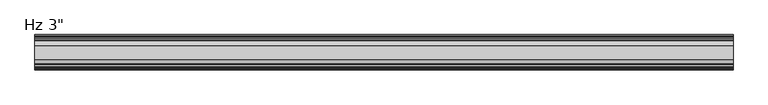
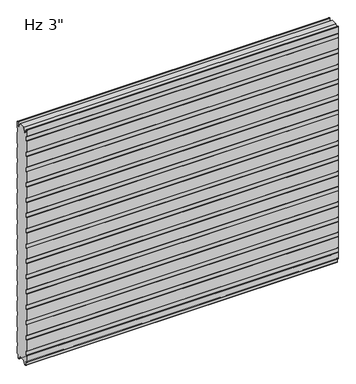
"""IFC4 building model written with IfcOpenShell, lengths in millimetres: plate geometry."""

from ifc_helpers import new_model, si_unit, frame, origin, place, context, project, spatial, polyline, circle_curve, source, transform, mapped, element, save
from ifc_brep_helpers import plane_surface, cylinder_surface, revolved_surface, advanced_brep


def plate_c64ea5ff(model_context):
    return source(origin(), model_context, "Body", "AdvancedBrep", [
        advanced_brep(
        [(-730.0, -74.0088405, 1097.7830195), (-730.0, -74.0088405, 1117.5660142), (-730.0, -75.1999956, 1118.6385351), (-730.0, -75.1999956, 1150.8100652), (-730.0, -73.2227271, 1152.7873337), (-730.0, -72.1806285, 1152.7873337), (-730.0, -70.20336, 1150.8100652), (-730.0, -70.20336, 1136.6216802), (-730.0, -67.6154835, 1134.0338036), (-730.0, -63.2950653, 1134.0338036), (-730.0, -62.7060718, 1133.4253365), (-730.0, -62.7060718, 1131.0482432), (-730.0, -61.7065979, 1131.0482432), (-730.0, -61.7065979, 1136.4905123), (-730.0, -52.4490821, 1152.525), (-730.0, -23.7509179, 1152.525), (-730.0, -14.4934021, 1136.4905123), (-730.0, -14.4934021, 1131.0482432), (-730.0, -13.4939282, 1131.0482432), (-730.0, -13.4939282, 1133.4253365), (-730.0, -12.9049347, 1134.0338036), (-730.0, -8.5845165, 1134.0338036), (-730.0, -5.99664, 1136.6216802), (-730.0, -5.99664, 1150.8100652), (-730.0, -4.0193715, 1152.7873337), (-730.0, -2.9772729, 1152.7873337), (-730.0, -1.0000044, 1150.8100652), (-730.0, -1.0000044, 1118.6385351), (-730.0, -2.1911595, 1117.5660142), (-730.0, -2.1911595, 1097.7830195), (-730.0, -1.0, 1096.7104947), (-730.0, -1.0, 1043.0159187), (-730.0, -2.1911595, 1041.9433939), (-730.0, -2.1911595, 1022.1603992), (-730.0, -1.0, 1021.0878744), (-730.0, -1.0, 967.3932985), (-730.0, -2.1911595, 966.3207736), (-730.0, -2.1911595, 946.537779), (-730.0, -1.0, 945.4652541), (-730.0, -1.0, 891.7706782), (-730.0, -2.1911595, 890.6981534), (-730.0, -2.1911595, 870.9151587), (-730.0, -1.0, 869.8426339), (-730.0, -1.0, 816.148058), (-730.0, -2.1911595, 815.0755331), (-730.0, -2.1911595, 795.2925384), (-730.0, -1.0, 794.2200136), (-730.0, -1.0, 740.5254377), (-730.0, -2.1911595, 739.4529129), (-730.0, -2.1911595, 719.6699182), (-730.0, -1.0, 718.5973933), (-730.0, -1.0, 664.9028174), (-730.0, -2.1911595, 663.8302926), (-730.0, -2.1911595, 644.0472979), (-730.0, -1.0, 642.9747731), (-730.0, -1.0, 589.2801972), (-730.0, -2.1911595, 588.2076723), (-730.0, -2.1911595, 568.4246776), (-730.0, -1.0, 567.3521528), (-730.0, -1.0, 513.6575769), (-730.0, -2.1911595, 512.5850521), (-730.0, -2.1911595, 492.8020574), (-730.0, -1.0, 491.7295325), (-730.0, -1.0, 438.0349566), (-730.0, -2.1911595, 436.9624318), (-730.0, -2.1911595, 417.1794371), (-730.0, -1.0, 416.1069123), (-730.0, -1.0, 362.4123364), (-730.0, -2.1911595, 361.3398115), (-730.0, -2.1911595, 341.5568169), (-730.0, -1.0, 340.484292), (-730.0, -1.0, 286.7897161), (-730.0, -2.1911595, 285.7171913), (-730.0, -2.1911595, 265.9341966), (-730.0, -1.0, 264.8616718), (-730.0, -1.0, 211.1670958), (-730.0, -2.1911595, 210.094571), (-730.0, -2.1911595, 190.3115763), (-730.0, -1.0, 189.2390515), (-730.0, -1.0, 135.5444756), (-730.0, -2.1911595, 134.4719507), (-730.0, -2.1911595, 114.6889561), (-730.0, -1.0, 113.6164312), (-730.0, -1.0, 59.9218553), (-730.0, -2.1911595, 58.8493305), (-730.0, -2.1911595, 39.0663358), (-730.0, -1.0000109, 37.993811), (-730.0, -1.0000109, 5.8272239), (-730.0, -2.9772849, 3.8499499), (-730.0, -5.2691749, 3.8499499), (-730.0, -9.246442, -0.1273173), (-730.0, -9.246442, -15.7237417), (-730.0, -9.8343189, -16.3116186), (-730.0, -12.9058679, -16.3116186), (-730.0, -13.4937446, -15.723742), (-730.0, -13.4937446, -13.3687064), (-730.0, -14.4937446, -13.3687064), (-730.0, -14.4937446, -15.6582851), (-730.0, -23.7509179, 0.0), (-730.0, -52.4490865, 0.0), (-730.0, -61.7062554, -15.6582851), (-730.0, -61.7062554, -13.3687064), (-730.0, -62.7062554, -13.3687064), (-730.0, -62.7062554, -15.723742), (-730.0, -63.2941321, -16.3116186), (-730.0, -66.3656811, -16.3116186), (-730.0, -66.953558, -15.7237417), (-730.0, -66.953558, -0.1273173), (-730.0, -70.9308251, 3.8499499), (-730.0, -73.2227151, 3.8499499), (-730.0, -75.1999891, 5.8272239), (-730.0, -75.1999891, 37.993811), (-730.0, -74.0088405, 39.0663358), (-730.0, -74.0088405, 58.8493305), (-730.0, -75.2, 59.9218553), (-730.0, -75.2, 113.6164312), (-730.0, -74.0088405, 114.6889561), (-730.0, -74.0088405, 134.4719507), (-730.0, -75.2, 135.5444756), (-730.0, -75.2, 189.2390515), (-730.0, -74.0088405, 190.3115763), (-730.0, -74.0088405, 210.094571), (-730.0, -75.2, 211.1670958), (-730.0, -75.2, 264.8616718), (-730.0, -74.0088405, 265.9341966), (-730.0, -74.0088405, 285.7171913), (-730.0, -75.2, 286.7897161), (-730.0, -75.2, 340.484292), (-730.0, -74.0088405, 341.5568169), (-730.0, -74.0088405, 361.3398115), (-730.0, -75.2, 362.4123364), (-730.0, -75.2, 416.1069123), (-730.0, -74.0088405, 417.1794371), (-730.0, -74.0088405, 436.9624318), (-730.0, -75.2, 438.0349566), (-730.0, -75.2, 491.7295325), (-730.0, -74.0088405, 492.8020574), (-730.0, -74.0088405, 512.5850521), (-730.0, -75.2, 513.6575769), (-730.0, -75.2, 567.3521528), (-730.0, -74.0088405, 568.4246776), (-730.0, -74.0088405, 588.2076723), (-730.0, -75.2, 589.2801972), (-730.0, -75.2, 642.9747731), (-730.0, -74.0088405, 644.0472979), (-730.0, -74.0088405, 663.8302926), (-730.0, -75.2, 664.9028174), (-730.0, -75.2, 718.5973933), (-730.0, -74.0088405, 719.6699182), (-730.0, -74.0088405, 739.4529129), (-730.0, -75.2, 740.5254377), (-730.0, -75.2, 794.2200136), (-730.0, -74.0088405, 795.2925384), (-730.0, -74.0088405, 815.0755331), (-730.0, -75.2, 816.148058), (-730.0, -75.2, 869.8426339), (-730.0, -74.0088405, 870.9151587), (-730.0, -74.0088405, 890.6981534), (-730.0, -75.2, 891.7706782), (-730.0, -75.2, 945.4652541), (-730.0, -74.0088405, 946.537779), (-730.0, -74.0088405, 966.3207736), (-730.0, -75.2, 967.3932985), (-730.0, -75.2, 1021.0878744), (-730.0, -74.0088405, 1022.1603992), (-730.0, -74.0088405, 1041.9433939), (-730.0, -75.2, 1043.0159187), (-730.0, -75.2, 1096.7104947), (730.0, -74.0088405, 1097.7830195), (730.0, -75.2, 1096.7104947), (730.0, -75.2, 1043.0159187), (730.0, -74.0088405, 1041.9433939), (730.0, -74.0088405, 1022.1603992), (730.0, -75.2, 1021.0878744), (730.0, -75.2, 967.3932985), (730.0, -74.0088405, 966.3207736), (730.0, -74.0088405, 946.537779), (730.0, -75.2, 945.4652541), (730.0, -75.2, 891.7706782), (730.0, -74.0088405, 890.6981534), (730.0, -74.0088405, 870.9151587), (730.0, -75.2, 869.8426339), (730.0, -75.2, 816.148058), (730.0, -74.0088405, 815.0755331), (730.0, -74.0088405, 795.2925384), (730.0, -75.2, 794.2200136), (730.0, -75.2, 740.5254377), (730.0, -74.0088405, 739.4529129), (730.0, -74.0088405, 719.6699182), (730.0, -75.2, 718.5973933), (730.0, -75.2, 664.9028174), (730.0, -74.0088405, 663.8302926), (730.0, -74.0088405, 644.0472979), (730.0, -75.2, 642.9747731), (730.0, -75.2, 589.2801972), (730.0, -74.0088405, 588.2076723), (730.0, -74.0088405, 568.4246776), (730.0, -75.2, 567.3521528), (730.0, -75.2, 513.6575769), (730.0, -74.0088405, 512.5850521), (730.0, -74.0088405, 492.8020574), (730.0, -75.2, 491.7295325), (730.0, -75.2, 438.0349566), (730.0, -74.0088405, 436.9624318), (730.0, -74.0088405, 417.1794371), (730.0, -75.2, 416.1069123), (730.0, -75.2, 362.4123364), (730.0, -74.0088405, 361.3398115), (730.0, -74.0088405, 341.5568169), (730.0, -75.2, 340.484292), (730.0, -75.2, 286.7897161), (730.0, -74.0088405, 285.7171913), (730.0, -74.0088405, 265.9341966), (730.0, -75.2, 264.8616718), (730.0, -75.2, 211.1670958), (730.0, -74.0088405, 210.094571), (730.0, -74.0088405, 190.3115763), (730.0, -75.2, 189.2390515), (730.0, -75.2, 135.5444756), (730.0, -74.0088405, 134.4719507), (730.0, -74.0088405, 114.6889561), (730.0, -75.2, 113.6164312), (730.0, -75.2, 59.9218553), (730.0, -74.0088405, 58.8493305), (730.0, -74.0088405, 39.0663358), (730.0, -75.1999891, 37.993811), (730.0, -75.1999891, 5.8272239), (730.0, -73.2227151, 3.8499499), (730.0, -70.9308251, 3.8499499), (730.0, -66.953558, -0.1273173), (730.0, -66.953558, -15.7237417), (730.0, -66.3656811, -16.3116186), (730.0, -63.2941321, -16.3116186), (730.0, -62.7062554, -15.723742), (730.0, -62.7062554, -13.3687064), (730.0, -61.7062554, -13.3687064), (730.0, -61.7062554, -15.6582851), (730.0, -52.4490821, 0.0), (730.0, -23.7509179, 0.0), (730.0, -14.4937446, -15.6582851), (730.0, -14.4937446, -13.3687064), (730.0, -13.4937446, -13.3687064), (730.0, -13.4937446, -15.723742), (730.0, -12.9058679, -16.3116186), (730.0, -9.8343189, -16.3116186), (730.0, -9.246442, -15.7237417), (730.0, -9.246442, -0.1273173), (730.0, -5.2691749, 3.8499499), (730.0, -2.9772849, 3.8499499), (730.0, -1.0000109, 5.8272239), (730.0, -1.0000109, 37.993811), (730.0, -2.1911595, 39.0663358), (730.0, -2.1911595, 58.8493305), (730.0, -1.0, 59.9218553), (730.0, -1.0, 113.6164312), (730.0, -2.1911595, 114.6889561), (730.0, -2.1911595, 134.4719507), (730.0, -1.0, 135.5444756), (730.0, -1.0, 189.2390515), (730.0, -2.1911595, 190.3115763), (730.0, -2.1911595, 210.094571), (730.0, -1.0, 211.1670958), (730.0, -1.0, 264.8616718), (730.0, -2.1911595, 265.9341966), (730.0, -2.1911595, 285.7171913), (730.0, -1.0, 286.7897161), (730.0, -1.0, 340.484292), (730.0, -2.1911595, 341.5568169), (730.0, -2.1911595, 361.3398115), (730.0, -1.0, 362.4123364), (730.0, -1.0, 416.1069123), (730.0, -2.1911595, 417.1794371), (730.0, -2.1911595, 436.9624318), (730.0, -1.0, 438.0349566), (730.0, -1.0, 491.7295325), (730.0, -2.1911595, 492.8020574), (730.0, -2.1911595, 512.5850521), (730.0, -1.0, 513.6575769), (730.0, -1.0, 567.3521528), (730.0, -2.1911595, 568.4246776), (730.0, -2.1911595, 588.2076723), (730.0, -1.0, 589.2801972), (730.0, -1.0, 642.9747731), (730.0, -2.1911595, 644.0472979), (730.0, -2.1911595, 663.8302926), (730.0, -1.0, 664.9028174), (730.0, -1.0, 718.5973933), (730.0, -2.1911595, 719.6699182), (730.0, -2.1911595, 739.4529129), (730.0, -1.0, 740.5254377), (730.0, -1.0, 794.2200136), (730.0, -2.1911595, 795.2925384), (730.0, -2.1911595, 815.0755331), (730.0, -1.0, 816.148058), (730.0, -1.0, 869.8426339), (730.0, -2.1911595, 870.9151587), (730.0, -2.1911595, 890.6981534), (730.0, -1.0, 891.7706782), (730.0, -1.0, 945.4652541), (730.0, -2.1911595, 946.537779), (730.0, -2.1911595, 966.3207736), (730.0, -1.0, 967.3932985), (730.0, -1.0, 1021.0878744), (730.0, -2.1911595, 1022.1603992), (730.0, -2.1911595, 1041.9433939), (730.0, -1.0, 1043.0159187), (730.0, -1.0, 1096.7104947), (730.0, -2.1911595, 1097.7830195), (730.0, -2.1911595, 1117.5660142), (730.0, -1.0000044, 1118.6385351), (730.0, -1.0000044, 1150.8100652), (730.0, -2.9772729, 1152.7873337), (730.0, -4.0193715, 1152.7873337), (730.0, -5.99664, 1150.8100652), (730.0, -5.99664, 1136.6216802), (730.0, -8.5845165, 1134.0338036), (730.0, -12.9049347, 1134.0338036), (730.0, -13.4939282, 1133.4253365), (730.0, -13.4939282, 1131.0482432), (730.0, -14.4934021, 1131.0482432), (730.0, -14.4934021, 1136.4905123), (730.0, -23.7509179, 1152.525), (730.0, -52.4490865, 1152.525), (730.0, -61.7065979, 1136.4905123), (730.0, -61.7065979, 1131.0482432), (730.0, -62.7060718, 1131.0482432), (730.0, -62.7060718, 1133.4253365), (730.0, -63.2950653, 1134.0338036), (730.0, -67.6154835, 1134.0338036), (730.0, -70.20336, 1136.6216802), (730.0, -70.20336, 1150.8100652), (730.0, -72.1806285, 1152.7873337), (730.0, -73.2227271, 1152.7873337), (730.0, -75.1999956, 1150.8100652), (730.0, -75.1999956, 1118.6385351), (730.0, -74.0088405, 1117.5660142)],
        [
            (0, 1),
            (1, 2),
            (2, 3),
            (3, 4, circle_curve(frame((-730.0, -73.2227271, 1150.8100652), z_axis=(-1.0, 0.0, 0.0), x_axis=(0.0, 0.0, -1.0)), 1.9772685)),
            (4, 5),
            (5, 6, circle_curve(frame((-730.0, -72.1806285, 1150.8100652), z_axis=(-1.0, 0.0, 0.0), x_axis=(0.0, 0.0, -1.0)), 1.9772685)),
            (6, 7),
            (7, 8, circle_curve(frame((-730.0, -67.6154835, 1136.6216802), z_axis=(1.0, 0.0, 0.0), x_axis=(0.0, 0.0, -1.0)), 2.5878765)),
            (8, 9),
            (9, 10, circle_curve(frame((-730.0, -63.2950653, 1133.4444985), z_axis=(-1.0, 0.0, 0.0), x_axis=(0.0, 0.0, -1.0)), 0.5893051)),
            (10, 11),
            (11, 12),
            (12, 13),
            (13, 14),
            (14, 15),
            (15, 16),
            (16, 17),
            (17, 18),
            (18, 19),
            (19, 20, circle_curve(frame((-730.0, -12.9049347, 1133.4444985), z_axis=(-1.0, 0.0, 0.0), x_axis=(0.0, 1.0, 0.0)), 0.5893051)),
            (20, 21),
            (21, 22, circle_curve(frame((-730.0, -8.5845165, 1136.6216802), z_axis=(1.0, 0.0, 0.0), x_axis=(0.0, 1.0, 0.0)), 2.5878765)),
            (22, 23),
            (23, 24, circle_curve(frame((-730.0, -4.0193715, 1150.8100652), z_axis=(-1.0, 0.0, 0.0), x_axis=(0.0, 1.0, 0.0)), 1.9772685)),
            (24, 25),
            (25, 26, circle_curve(frame((-730.0, -2.9772729, 1150.8100652), z_axis=(-1.0, 0.0, 0.0), x_axis=(0.0, 1.0, 0.0)), 1.9772685)),
            (26, 27),
            (27, 28),
            (28, 29),
            (29, 30),
            (30, 31),
            (31, 32),
            (32, 33),
            (33, 34),
            (34, 35),
            (35, 36),
            (36, 37),
            (37, 38),
            (38, 39),
            (39, 40),
            (40, 41),
            (41, 42),
            (42, 43),
            (43, 44),
            (44, 45),
            (45, 46),
            (46, 47),
            (47, 48),
            (48, 49),
            (49, 50),
            (50, 51),
            (51, 52),
            (52, 53),
            (53, 54),
            (54, 55),
            (55, 56),
            (56, 57),
            (57, 58),
            (58, 59),
            (59, 60),
            (60, 61),
            (61, 62),
            (62, 63),
            (63, 64),
            (64, 65),
            (65, 66),
            (66, 67),
            (67, 68),
            (68, 69),
            (69, 70),
            (70, 71),
            (71, 72),
            (72, 73),
            (73, 74),
            (74, 75),
            (75, 76),
            (76, 77),
            (77, 78),
            (78, 79),
            (79, 80),
            (80, 81),
            (81, 82),
            (82, 83),
            (83, 84),
            (84, 85),
            (85, 86),
            (86, 87),
            (87, 88, circle_curve(frame((-730.0, -2.9772849, 5.8272239), z_axis=(-1.0, 0.0, 0.0), x_axis=(0.0, 1.0, 0.0)), 1.977274)),
            (88, 89),
            (89, 90, circle_curve(frame((-730.0, -5.2691749, -0.1273173), z_axis=(1.0, 0.0, 0.0), x_axis=(0.0, 1.0, 0.0)), 3.9772671)),
            (90, 91),
            (91, 92, circle_curve(frame((-730.0, -9.8343189, -15.7237417), z_axis=(-1.0, 0.0, 0.0), x_axis=(0.0, 1.0, 0.0)), 0.5878769)),
            (92, 93),
            (93, 94, circle_curve(frame((-730.0, -12.9058679, -15.723742), z_axis=(-1.0, 0.0, 0.0), x_axis=(0.0, 1.0, 0.0)), 0.5878766)),
            (94, 95),
            (95, 96),
            (96, 97),
            (97, 98),
            (98, 99),
            (99, 100),
            (100, 101),
            (101, 102),
            (102, 103),
            (103, 104, circle_curve(frame((-730.0, -63.2941321, -15.723742), z_axis=(-1.0, 0.0, 0.0), x_axis=(0.0, 0.0, -1.0)), 0.5878766)),
            (104, 105),
            (105, 106, circle_curve(frame((-730.0, -66.3656811, -15.7237417), z_axis=(-1.0, 0.0, 0.0), x_axis=(0.0, 0.0, -1.0)), 0.5878769)),
            (106, 107),
            (107, 108, circle_curve(frame((-730.0, -70.9308251, -0.1273173), z_axis=(1.0, 0.0, 0.0), x_axis=(0.0, 0.0, -1.0)), 3.9772671)),
            (108, 109),
            (109, 110, circle_curve(frame((-730.0, -73.2227151, 5.8272239), z_axis=(-1.0, 0.0, 0.0), x_axis=(0.0, 0.0, -1.0)), 1.977274)),
            (110, 111),
            (111, 112),
            (112, 113),
            (113, 114),
            (114, 115),
            (115, 116),
            (116, 117),
            (117, 118),
            (118, 119),
            (119, 120),
            (120, 121),
            (121, 122),
            (122, 123),
            (123, 124),
            (124, 125),
            (125, 126),
            (126, 127),
            (127, 128),
            (128, 129),
            (129, 130),
            (130, 131),
            (131, 132),
            (132, 133),
            (133, 134),
            (134, 135),
            (135, 136),
            (136, 137),
            (137, 138),
            (138, 139),
            (139, 140),
            (140, 141),
            (141, 142),
            (142, 143),
            (143, 144),
            (144, 145),
            (145, 146),
            (146, 147),
            (147, 148),
            (148, 149),
            (149, 150),
            (150, 151),
            (151, 152),
            (152, 153),
            (153, 154),
            (154, 155),
            (155, 156),
            (156, 157),
            (157, 158),
            (158, 159),
            (159, 160),
            (160, 161),
            (161, 162),
            (162, 163),
            (163, 164),
            (164, 165),
            (165, 166),
            (166, 167),
            (167, 0),
            (168, 169),
            (169, 170),
            (170, 171),
            (171, 172),
            (172, 173),
            (173, 174),
            (174, 175),
            (175, 176),
            (176, 177),
            (177, 178),
            (178, 179),
            (179, 180),
            (180, 181),
            (181, 182),
            (182, 183),
            (183, 184),
            (184, 185),
            (185, 186),
            (186, 187),
            (187, 188),
            (188, 189),
            (189, 190),
            (190, 191),
            (191, 192),
            (192, 193),
            (193, 194),
            (194, 195),
            (195, 196),
            (196, 197),
            (197, 198),
            (198, 199),
            (199, 200),
            (200, 201),
            (201, 202),
            (202, 203),
            (203, 204),
            (204, 205),
            (205, 206),
            (206, 207),
            (207, 208),
            (208, 209),
            (209, 210),
            (210, 211),
            (211, 212),
            (212, 213),
            (213, 214),
            (214, 215),
            (215, 216),
            (216, 217),
            (217, 218),
            (218, 219),
            (219, 220),
            (220, 221),
            (221, 222),
            (222, 223),
            (223, 224),
            (224, 225),
            (225, 226),
            (226, 227, circle_curve(frame((730.0, -73.2227151, 5.8272239), z_axis=(1.0, 0.0, 0.0), x_axis=(0.0, 0.0, -1.0)), 1.977274)),
            (227, 228),
            (228, 229, circle_curve(frame((730.0, -70.9308251, -0.1273173), z_axis=(-1.0, 0.0, 0.0), x_axis=(0.0, 0.0, -1.0)), 3.9772671)),
            (229, 230),
            (230, 231, circle_curve(frame((730.0, -66.3656811, -15.7237417), z_axis=(1.0, 0.0, 0.0), x_axis=(0.0, 0.0, -1.0)), 0.5878769)),
            (231, 232),
            (232, 233, circle_curve(frame((730.0, -63.2941321, -15.723742), z_axis=(1.0, 0.0, 0.0), x_axis=(0.0, 0.0, -1.0)), 0.5878766)),
            (233, 234),
            (234, 235),
            (235, 236),
            (236, 237),
            (237, 238),
            (238, 239),
            (239, 240),
            (240, 241),
            (241, 242),
            (242, 243, circle_curve(frame((730.0, -12.9058679, -15.723742), z_axis=(1.0, 0.0, 0.0), x_axis=(0.0, 1.0, 0.0)), 0.5878766)),
            (243, 244),
            (244, 245, circle_curve(frame((730.0, -9.8343189, -15.7237417), z_axis=(1.0, 0.0, 0.0), x_axis=(0.0, 1.0, 0.0)), 0.5878769)),
            (245, 246),
            (246, 247, circle_curve(frame((730.0, -5.2691749, -0.1273173), z_axis=(-1.0, 0.0, 0.0), x_axis=(0.0, 1.0, 0.0)), 3.9772671)),
            (247, 248),
            (248, 249, circle_curve(frame((730.0, -2.9772849, 5.8272239), z_axis=(1.0, 0.0, 0.0), x_axis=(0.0, 1.0, 0.0)), 1.977274)),
            (249, 250),
            (250, 251),
            (251, 252),
            (252, 253),
            (253, 254),
            (254, 255),
            (255, 256),
            (256, 257),
            (257, 258),
            (258, 259),
            (259, 260),
            (260, 261),
            (261, 262),
            (262, 263),
            (263, 264),
            (264, 265),
            (265, 266),
            (266, 267),
            (267, 268),
            (268, 269),
            (269, 270),
            (270, 271),
            (271, 272),
            (272, 273),
            (273, 274),
            (274, 275),
            (275, 276),
            (276, 277),
            (277, 278),
            (278, 279),
            (279, 280),
            (280, 281),
            (281, 282),
            (282, 283),
            (283, 284),
            (284, 285),
            (285, 286),
            (286, 287),
            (287, 288),
            (288, 289),
            (289, 290),
            (290, 291),
            (291, 292),
            (292, 293),
            (293, 294),
            (294, 295),
            (295, 296),
            (296, 297),
            (297, 298),
            (298, 299),
            (299, 300),
            (300, 301),
            (301, 302),
            (302, 303),
            (303, 304),
            (304, 305),
            (305, 306),
            (306, 307),
            (307, 308),
            (308, 309),
            (309, 310),
            (310, 311, circle_curve(frame((730.0, -2.9772729, 1150.8100652), z_axis=(1.0, 0.0, 0.0), x_axis=(0.0, 1.0, 0.0)), 1.9772685)),
            (311, 312),
            (312, 313, circle_curve(frame((730.0, -4.0193715, 1150.8100652), z_axis=(1.0, 0.0, 0.0), x_axis=(0.0, 1.0, 0.0)), 1.9772685)),
            (313, 314),
            (314, 315, circle_curve(frame((730.0, -8.5845165, 1136.6216802), z_axis=(-1.0, 0.0, 0.0), x_axis=(0.0, 1.0, 0.0)), 2.5878765)),
            (315, 316),
            (316, 317, circle_curve(frame((730.0, -12.9049347, 1133.4444985), z_axis=(1.0, 0.0, 0.0), x_axis=(0.0, 1.0, 0.0)), 0.5893051)),
            (317, 318),
            (318, 319),
            (319, 320),
            (320, 321),
            (321, 322),
            (322, 323),
            (323, 324),
            (324, 325),
            (325, 326),
            (326, 327, circle_curve(frame((730.0, -63.2950653, 1133.4444985), z_axis=(1.0, 0.0, 0.0), x_axis=(0.0, 0.0, -1.0)), 0.5893051)),
            (327, 328),
            (328, 329, circle_curve(frame((730.0, -67.6154835, 1136.6216802), z_axis=(-1.0, 0.0, 0.0), x_axis=(0.0, 0.0, -1.0)), 2.5878765)),
            (329, 330),
            (330, 331, circle_curve(frame((730.0, -72.1806285, 1150.8100652), z_axis=(1.0, 0.0, 0.0), x_axis=(0.0, 0.0, -1.0)), 1.9772685)),
            (331, 332),
            (332, 333, circle_curve(frame((730.0, -73.2227271, 1150.8100652), z_axis=(1.0, 0.0, 0.0), x_axis=(0.0, 0.0, -1.0)), 1.9772685)),
            (333, 334),
            (334, 335),
            (335, 168),
            (28, 308),
            (307, 29),
            (27, 309),
            (26, 310),
            (25, 311),
            (24, 312),
            (23, 313),
            (22, 314),
            (21, 315),
            (20, 316),
            (19, 317),
            (18, 318),
            (17, 319),
            (16, 320),
            (15, 321),
            (97, 239),
            (238, 98),
            (96, 240),
            (95, 241),
            (94, 242),
            (93, 243),
            (92, 244),
            (91, 245),
            (90, 246),
            (89, 247),
            (88, 248),
            (87, 249),
            (86, 250),
            (85, 251),
            (84, 252),
            (83, 253),
            (82, 254),
            (81, 255),
            (80, 256),
            (79, 257),
            (78, 258),
            (77, 259),
            (76, 260),
            (75, 261),
            (74, 262),
            (73, 263),
            (72, 264),
            (71, 265),
            (70, 266),
            (69, 267),
            (68, 268),
            (67, 269),
            (66, 270),
            (65, 271),
            (64, 272),
            (63, 273),
            (62, 274),
            (61, 275),
            (60, 276),
            (59, 277),
            (58, 278),
            (57, 279),
            (56, 280),
            (55, 281),
            (54, 282),
            (53, 283),
            (52, 284),
            (51, 285),
            (50, 286),
            (49, 287),
            (48, 288),
            (47, 289),
            (46, 290),
            (45, 291),
            (44, 292),
            (43, 293),
            (42, 294),
            (41, 295),
            (40, 296),
            (39, 297),
            (38, 298),
            (37, 299),
            (36, 300),
            (35, 301),
            (34, 302),
            (33, 303),
            (32, 304),
            (31, 305),
            (30, 306),
            (14, 322),
            (237, 99),
            (167, 169),
            (168, 0),
            (166, 170),
            (165, 171),
            (164, 172),
            (163, 173),
            (162, 174),
            (161, 175),
            (160, 176),
            (159, 177),
            (158, 178),
            (157, 179),
            (156, 180),
            (155, 181),
            (154, 182),
            (153, 183),
            (152, 184),
            (151, 185),
            (150, 186),
            (149, 187),
            (148, 188),
            (147, 189),
            (146, 190),
            (145, 191),
            (144, 192),
            (143, 193),
            (142, 194),
            (141, 195),
            (140, 196),
            (139, 197),
            (138, 198),
            (137, 199),
            (136, 200),
            (135, 201),
            (134, 202),
            (133, 203),
            (132, 204),
            (131, 205),
            (130, 206),
            (129, 207),
            (128, 208),
            (127, 209),
            (126, 210),
            (125, 211),
            (124, 212),
            (123, 213),
            (122, 214),
            (121, 215),
            (120, 216),
            (119, 217),
            (118, 218),
            (117, 219),
            (116, 220),
            (115, 221),
            (114, 222),
            (113, 223),
            (112, 224),
            (111, 225),
            (110, 226),
            (109, 227),
            (108, 228),
            (107, 229),
            (106, 230),
            (105, 231),
            (104, 232),
            (103, 233),
            (102, 234),
            (101, 235),
            (100, 236),
            (13, 323),
            (12, 324),
            (11, 325),
            (10, 326),
            (9, 327),
            (8, 328),
            (7, 329),
            (6, 330),
            (5, 331),
            (4, 332),
            (3, 333),
            (2, 334),
            (1, 335),
        ],
        [
            plane_surface(frame((-730.0, -75.2, 576.2625), z_axis=(-1.0, 0.0, 0.0), x_axis=(0.0, -1.0, 0.0))),
            plane_surface(frame((730.0, -75.2, 576.2625), z_axis=(1.0, 0.0, 0.0), x_axis=(0.0, -1.0, 0.0))),
            plane_surface(frame((-730.0, -2.1911595, 1097.7830195), z_axis=(0.0, 1.0, 0.0), x_axis=(1.0, 0.0, 0.0))),
            plane_surface(frame((-730.0, -2.1911595, 1117.5660142), z_axis=(0.0, 0.669130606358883, -0.7431448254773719), x_axis=(1.0, 0.0, 0.0))),
            plane_surface(frame((-730.0, -1.0000044, 1118.6385351), z_axis=(0.0, 1.0, 0.0), x_axis=(1.0, 0.0, 0.0))),
            cylinder_surface(frame((-730.0, -2.9772729, 1150.8100652), z_axis=(-1.0, 0.0, 0.0), x_axis=(0.0, 1.0, 0.0)), 1.9772685),
            plane_surface(frame((-730.0, -2.9772729, 1152.7873337), z_axis=(0.0, 0.0, 1.0), x_axis=(1.0, 0.0, 0.0))),
            cylinder_surface(frame((-730.0, -4.0193715, 1150.8100652), z_axis=(-1.0, 0.0, 0.0), x_axis=(0.0, 1.0, 0.0)), 1.9772685),
            plane_surface(frame((-730.0, -5.99664, 1150.8100652), z_axis=(0.0, -1.0, 0.0), x_axis=(1.0, 0.0, 0.0))),
            revolved_surface(polyline([(730.0, -5.996639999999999, 1136.6216802), (-730.0, -5.996639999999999, 1136.6216802)]), (-730.0, -8.5845165, 1136.6216802), (1.0, 0.0, 0.0)),
            plane_surface(frame((-730.0, -8.5845165, 1134.0338036), z_axis=(0.0, 0.0, 1.0), x_axis=(1.0, 0.0, 0.0))),
            cylinder_surface(frame((-730.0, -12.9049347, 1133.4444985), z_axis=(-1.0, 0.0, 0.0), x_axis=(0.0, 1.0, 0.0)), 0.5893051),
            plane_surface(frame((-730.0, -13.4939282, 1133.4253365), z_axis=(0.0, -1.0, 0.0), x_axis=(1.0, 0.0, 0.0))),
            plane_surface(frame((-730.0, -13.4939282, 1131.0482432), z_axis=(0.0, 0.0, 1.0), x_axis=(1.0, 0.0, 0.0))),
            plane_surface(frame((-730.0, -14.4934021, 1131.0482432), z_axis=(0.0, 1.0, 0.0), x_axis=(1.0, 0.0, 0.0))),
            plane_surface(frame((-730.0, -14.4934021, 1136.4905123), z_axis=(0.0, 0.8660254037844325, 0.5000000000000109), x_axis=(1.0, 0.0, 0.0))),
            plane_surface(frame((-730.0, -23.7509179, 0.0), z_axis=(0.0, -0.8608169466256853, -0.5089147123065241), x_axis=(1.0, 0.0, 0.0))),
            plane_surface(frame((-730.0, -14.4937446, -15.6582851), z_axis=(0.0, 1.0, 0.0), x_axis=(1.0, 0.0, 0.0))),
            plane_surface(frame((-730.0, -14.4937446, -13.3687064), z_axis=(0.0, 0.0, -1.0), x_axis=(1.0, 0.0, 0.0))),
            plane_surface(frame((-730.0, -13.4937446, -13.3687064), z_axis=(0.0, -1.0, 0.0), x_axis=(1.0, 0.0, 0.0))),
            cylinder_surface(frame((-730.0, -12.9058679, -15.723742), z_axis=(-1.0, 0.0, 0.0), x_axis=(0.0, 1.0, 0.0)), 0.5878766),
            plane_surface(frame((-730.0, -12.9058679, -16.3116186), z_axis=(0.0, 0.0, -1.0), x_axis=(1.0, 0.0, 0.0))),
            cylinder_surface(frame((-730.0, -9.8343189, -15.7237417), z_axis=(-1.0, 0.0, 0.0), x_axis=(0.0, 1.0, 0.0)), 0.5878769),
            plane_surface(frame((-730.0, -9.246442, -15.7237417), z_axis=(0.0, 1.0, 0.0), x_axis=(1.0, 0.0, 0.0))),
            revolved_surface(polyline([(730.0, -1.2919078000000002, -0.1273173), (-730.0, -1.2919078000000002, -0.1273173)]), (-730.0, -5.2691749, -0.1273173), (1.0, 0.0, 0.0)),
            plane_surface(frame((-730.0, -5.2691749, 3.8499499), z_axis=(0.0, 0.0, -1.0), x_axis=(1.0, 0.0, 0.0))),
            cylinder_surface(frame((-730.0, -2.9772849, 5.8272239), z_axis=(-1.0, 0.0, 0.0), x_axis=(0.0, 1.0, 0.0)), 1.977274),
            plane_surface(frame((-730.0, -1.0000109, 5.8272239), z_axis=(0.0, 1.0, 0.0), x_axis=(1.0, 0.0, 0.0))),
            plane_surface(frame((-730.0, -1.0000109, 37.993811), z_axis=(0.0, 0.6691339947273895, 0.7431417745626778), x_axis=(1.0, 0.0, 0.0))),
            plane_surface(frame((-730.0, -2.1911595, 39.0663358), z_axis=(0.0, 1.0, 0.0), x_axis=(1.0, 0.0, 0.0))),
            plane_surface(frame((-730.0, -2.1911595, 58.8493305), z_axis=(0.0, 0.6691306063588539, -0.7431448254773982), x_axis=(1.0, 0.0, 0.0))),
            plane_surface(frame((-730.0, -1.0, 59.9218553), z_axis=(0.0, 1.0, 0.0), x_axis=(1.0, 0.0, 0.0))),
            plane_surface(frame((-730.0, -1.0, 113.6164312), z_axis=(0.0, 0.6691306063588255, 0.7431448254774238), x_axis=(1.0, 0.0, 0.0))),
            plane_surface(frame((-730.0, -2.1911595, 114.6889561), z_axis=(0.0, 1.0, 0.0), x_axis=(1.0, 0.0, 0.0))),
            plane_surface(frame((-730.0, -2.1911595, 134.4719507), z_axis=(0.0, 0.6691306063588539, -0.7431448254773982), x_axis=(1.0, 0.0, 0.0))),
            plane_surface(frame((-730.0, -1.0, 135.5444756), z_axis=(0.0, 1.0, 0.0), x_axis=(1.0, 0.0, 0.0))),
            plane_surface(frame((-730.0, -1.0, 189.2390515), z_axis=(0.0, 0.669130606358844, 0.743144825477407), x_axis=(1.0, 0.0, 0.0))),
            plane_surface(frame((-730.0, -2.1911595, 190.3115763), z_axis=(0.0, 1.0, 0.0), x_axis=(1.0, 0.0, 0.0))),
            plane_surface(frame((-730.0, -2.1911595, 210.094571), z_axis=(0.0, 0.6691306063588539, -0.7431448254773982), x_axis=(1.0, 0.0, 0.0))),
            plane_surface(frame((-730.0, -1.0, 211.1670958), z_axis=(0.0, 1.0, 0.0), x_axis=(1.0, 0.0, 0.0))),
            plane_surface(frame((-730.0, -1.0, 264.8616718), z_axis=(0.0, 0.6691306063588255, 0.7431448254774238), x_axis=(1.0, 0.0, 0.0))),
            plane_surface(frame((-730.0, -2.1911595, 265.9341966), z_axis=(0.0, 1.0, 0.0), x_axis=(1.0, 0.0, 0.0))),
            plane_surface(frame((-730.0, -2.1911595, 285.7171913), z_axis=(0.0, 0.6691306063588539, -0.7431448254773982), x_axis=(1.0, 0.0, 0.0))),
            plane_surface(frame((-730.0, -1.0, 286.7897161), z_axis=(0.0, 1.0, 0.0), x_axis=(1.0, 0.0, 0.0))),
            plane_surface(frame((-730.0, -1.0, 340.484292), z_axis=(0.0, 0.669130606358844, 0.743144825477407), x_axis=(1.0, 0.0, 0.0))),
            plane_surface(frame((-730.0, -2.1911595, 341.5568169), z_axis=(0.0, 1.0, 0.0), x_axis=(1.0, 0.0, 0.0))),
            plane_surface(frame((-730.0, -2.1911595, 361.3398115), z_axis=(0.0, 0.6691306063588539, -0.7431448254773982), x_axis=(1.0, 0.0, 0.0))),
            plane_surface(frame((-730.0, -1.0, 362.4123364), z_axis=(0.0, 1.0, 0.0), x_axis=(1.0, 0.0, 0.0))),
            plane_surface(frame((-730.0, -1.0, 416.1069123), z_axis=(0.0, 0.669130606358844, 0.743144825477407), x_axis=(1.0, 0.0, 0.0))),
            plane_surface(frame((-730.0, -2.1911595, 417.1794371), z_axis=(0.0, 1.0, 0.0), x_axis=(1.0, 0.0, 0.0))),
            plane_surface(frame((-730.0, -2.1911595, 436.9624318), z_axis=(0.0, 0.6691306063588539, -0.7431448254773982), x_axis=(1.0, 0.0, 0.0))),
            plane_surface(frame((-730.0, -1.0, 438.0349566), z_axis=(0.0, 1.0, 0.0), x_axis=(1.0, 0.0, 0.0))),
            plane_surface(frame((-730.0, -1.0, 491.7295325), z_axis=(0.0, 0.6691306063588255, 0.7431448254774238), x_axis=(1.0, 0.0, 0.0))),
            plane_surface(frame((-730.0, -2.1911595, 492.8020574), z_axis=(0.0, 1.0, 0.0), x_axis=(1.0, 0.0, 0.0))),
            plane_surface(frame((-730.0, -2.1911595, 512.5850521), z_axis=(0.0, 0.6691306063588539, -0.7431448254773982), x_axis=(1.0, 0.0, 0.0))),
            plane_surface(frame((-730.0, -1.0, 513.6575769), z_axis=(0.0, 1.0, 0.0), x_axis=(1.0, 0.0, 0.0))),
            plane_surface(frame((-730.0, -1.0, 567.3521528), z_axis=(0.0, 0.669130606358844, 0.743144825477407), x_axis=(1.0, 0.0, 0.0))),
            plane_surface(frame((-730.0, -2.1911595, 568.4246776), z_axis=(0.0, 1.0, 0.0), x_axis=(1.0, 0.0, 0.0))),
            plane_surface(frame((-730.0, -2.1911595, 588.2076723), z_axis=(0.0, 0.6691306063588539, -0.7431448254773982), x_axis=(1.0, 0.0, 0.0))),
            plane_surface(frame((-730.0, -1.0, 589.2801972), z_axis=(0.0, 1.0, 0.0), x_axis=(1.0, 0.0, 0.0))),
            plane_surface(frame((-730.0, -1.0, 642.9747731), z_axis=(0.0, 0.6691306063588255, 0.7431448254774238), x_axis=(1.0, 0.0, 0.0))),
            plane_surface(frame((-730.0, -2.1911595, 644.0472979), z_axis=(0.0, 1.0, 0.0), x_axis=(1.0, 0.0, 0.0))),
            plane_surface(frame((-730.0, -2.1911595, 663.8302926), z_axis=(0.0, 0.6691306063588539, -0.7431448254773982), x_axis=(1.0, 0.0, 0.0))),
            plane_surface(frame((-730.0, -1.0, 664.9028174), z_axis=(0.0, 1.0, 0.0), x_axis=(1.0, 0.0, 0.0))),
            plane_surface(frame((-730.0, -1.0, 718.5973933), z_axis=(0.0, 0.669130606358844, 0.743144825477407), x_axis=(1.0, 0.0, 0.0))),
            plane_surface(frame((-730.0, -2.1911595, 719.6699182), z_axis=(0.0, 1.0, 0.0), x_axis=(1.0, 0.0, 0.0))),
            plane_surface(frame((-730.0, -2.1911595, 739.4529129), z_axis=(0.0, 0.6691306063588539, -0.7431448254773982), x_axis=(1.0, 0.0, 0.0))),
            plane_surface(frame((-730.0, -1.0, 740.5254377), z_axis=(0.0, 1.0, 0.0), x_axis=(1.0, 0.0, 0.0))),
            plane_surface(frame((-730.0, -1.0, 794.2200136), z_axis=(0.0, 0.6691306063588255, 0.7431448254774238), x_axis=(1.0, 0.0, 0.0))),
            plane_surface(frame((-730.0, -2.1911595, 795.2925384), z_axis=(0.0, 1.0, 0.0), x_axis=(1.0, 0.0, 0.0))),
            plane_surface(frame((-730.0, -2.1911595, 815.0755331), z_axis=(0.0, 0.6691306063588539, -0.7431448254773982), x_axis=(1.0, 0.0, 0.0))),
            plane_surface(frame((-730.0, -1.0, 816.148058), z_axis=(0.0, 1.0, 0.0), x_axis=(1.0, 0.0, 0.0))),
            plane_surface(frame((-730.0, -1.0, 869.8426339), z_axis=(0.0, 0.669130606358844, 0.743144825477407), x_axis=(1.0, 0.0, 0.0))),
            plane_surface(frame((-730.0, -2.1911595, 870.9151587), z_axis=(0.0, 1.0, 0.0), x_axis=(1.0, 0.0, 0.0))),
            plane_surface(frame((-730.0, -2.1911595, 890.6981534), z_axis=(0.0, 0.6691306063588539, -0.7431448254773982), x_axis=(1.0, 0.0, 0.0))),
            plane_surface(frame((-730.0, -1.0, 891.7706782), z_axis=(0.0, 1.0, 0.0), x_axis=(1.0, 0.0, 0.0))),
            plane_surface(frame((-730.0, -1.0, 945.4652541), z_axis=(0.0, 0.669130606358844, 0.743144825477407), x_axis=(1.0, 0.0, 0.0))),
            plane_surface(frame((-730.0, -2.1911595, 946.537779), z_axis=(0.0, 1.0, 0.0), x_axis=(1.0, 0.0, 0.0))),
            plane_surface(frame((-730.0, -2.1911595, 966.3207736), z_axis=(0.0, 0.6691306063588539, -0.7431448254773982), x_axis=(1.0, 0.0, 0.0))),
            plane_surface(frame((-730.0, -1.0, 967.3932985), z_axis=(0.0, 1.0, 0.0), x_axis=(1.0, 0.0, 0.0))),
            plane_surface(frame((-730.0, -1.0, 1021.0878744), z_axis=(0.0, 0.669130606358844, 0.743144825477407), x_axis=(1.0, 0.0, 0.0))),
            plane_surface(frame((-730.0, -2.1911595, 1022.1603992), z_axis=(0.0, 1.0, 0.0), x_axis=(1.0, 0.0, 0.0))),
            plane_surface(frame((-730.0, -2.1911595, 1041.9433939), z_axis=(0.0, 0.6691306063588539, -0.7431448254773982), x_axis=(1.0, 0.0, 0.0))),
            plane_surface(frame((-730.0, -1.0, 1043.0159187), z_axis=(0.0, 1.0, 0.0), x_axis=(1.0, 0.0, 0.0))),
            plane_surface(frame((-730.0, -1.0, 1096.7104947), z_axis=(0.0, 0.669130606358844, 0.743144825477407), x_axis=(1.0, 0.0, 0.0))),
            plane_surface(frame((-730.0, -52.4490865, 1152.525), z_axis=(0.0, 0.0, 1.0), x_axis=(-1.0, 0.0, 0.0))),
            plane_surface(frame((-730.0, -52.4490865, 0.0), z_axis=(0.0, 0.0, -1.0), x_axis=(1.0, 0.0, 0.0))),
            plane_surface(frame((-730.0, -74.0088405, 1097.7830195), z_axis=(0.0, -0.6691306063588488, 0.7431448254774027), x_axis=(1.0, 0.0, 0.0))),
            plane_surface(frame((-730.0, -75.2, 1096.7104947), z_axis=(0.0, -1.0, 0.0), x_axis=(1.0, 0.0, 0.0))),
            plane_surface(frame((-730.0, -75.2, 1043.0159187), z_axis=(0.0, -0.6691306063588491, -0.7431448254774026), x_axis=(1.0, 0.0, 0.0))),
            plane_surface(frame((-730.0, -74.0088405, 1041.9433939), z_axis=(0.0, -1.0, 0.0), x_axis=(1.0, 0.0, 0.0))),
            plane_surface(frame((-730.0, -74.0088405, 1022.1603992), z_axis=(0.0, -0.6691306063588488, 0.7431448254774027), x_axis=(1.0, 0.0, 0.0))),
            plane_surface(frame((-730.0, -75.2, 1021.0878744), z_axis=(0.0, -1.0, 0.0), x_axis=(1.0, 0.0, 0.0))),
            plane_surface(frame((-730.0, -75.2, 967.3932985), z_axis=(0.0, -0.6691306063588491, -0.7431448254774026), x_axis=(1.0, 0.0, 0.0))),
            plane_surface(frame((-730.0, -74.0088405, 966.3207736), z_axis=(0.0, -1.0, 0.0), x_axis=(1.0, 0.0, 0.0))),
            plane_surface(frame((-730.0, -74.0088405, 946.537779), z_axis=(0.0, -0.6691306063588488, 0.7431448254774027), x_axis=(1.0, 0.0, 0.0))),
            plane_surface(frame((-730.0, -75.2, 945.4652541), z_axis=(0.0, -1.0, 0.0), x_axis=(1.0, 0.0, 0.0))),
            plane_surface(frame((-730.0, -75.2, 891.7706782), z_axis=(0.0, -0.6691306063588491, -0.7431448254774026), x_axis=(1.0, 0.0, 0.0))),
            plane_surface(frame((-730.0, -74.0088405, 890.6981534), z_axis=(0.0, -1.0, 0.0), x_axis=(1.0, 0.0, 0.0))),
            plane_surface(frame((-730.0, -74.0088405, 870.9151587), z_axis=(0.0, -0.6691306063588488, 0.7431448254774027), x_axis=(1.0, 0.0, 0.0))),
            plane_surface(frame((-730.0, -75.2, 869.8426339), z_axis=(0.0, -1.0, 0.0), x_axis=(1.0, 0.0, 0.0))),
            plane_surface(frame((-730.0, -75.2, 816.148058), z_axis=(0.0, -0.6691306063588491, -0.7431448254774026), x_axis=(1.0, 0.0, 0.0))),
            plane_surface(frame((-730.0, -74.0088405, 815.0755331), z_axis=(0.0, -1.0, 0.0), x_axis=(1.0, 0.0, 0.0))),
            plane_surface(frame((-730.0, -74.0088405, 795.2925384), z_axis=(0.0, -0.6691306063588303, 0.7431448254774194), x_axis=(1.0, 0.0, 0.0))),
            plane_surface(frame((-730.0, -75.2, 794.2200136), z_axis=(0.0, -1.0, 0.0), x_axis=(1.0, 0.0, 0.0))),
            plane_surface(frame((-730.0, -75.2, 740.5254377), z_axis=(0.0, -0.6691306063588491, -0.7431448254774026), x_axis=(1.0, 0.0, 0.0))),
            plane_surface(frame((-730.0, -74.0088405, 739.4529129), z_axis=(0.0, -1.0, 0.0), x_axis=(1.0, 0.0, 0.0))),
            plane_surface(frame((-730.0, -74.0088405, 719.6699182), z_axis=(0.0, -0.6691306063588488, 0.7431448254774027), x_axis=(1.0, 0.0, 0.0))),
            plane_surface(frame((-730.0, -75.2, 718.5973933), z_axis=(0.0, -1.0, 0.0), x_axis=(1.0, 0.0, 0.0))),
            plane_surface(frame((-730.0, -75.2, 664.9028174), z_axis=(0.0, -0.6691306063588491, -0.7431448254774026), x_axis=(1.0, 0.0, 0.0))),
            plane_surface(frame((-730.0, -74.0088405, 663.8302926), z_axis=(0.0, -1.0, 0.0), x_axis=(1.0, 0.0, 0.0))),
            plane_surface(frame((-730.0, -74.0088405, 644.0472979), z_axis=(0.0, -0.6691306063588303, 0.7431448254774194), x_axis=(1.0, 0.0, 0.0))),
            plane_surface(frame((-730.0, -75.2, 642.9747731), z_axis=(0.0, -1.0, 0.0), x_axis=(1.0, 0.0, 0.0))),
            plane_surface(frame((-730.0, -75.2, 589.2801972), z_axis=(0.0, -0.6691306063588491, -0.7431448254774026), x_axis=(1.0, 0.0, 0.0))),
            plane_surface(frame((-730.0, -74.0088405, 588.2076723), z_axis=(0.0, -1.0, 0.0), x_axis=(1.0, 0.0, 0.0))),
            plane_surface(frame((-730.0, -74.0088405, 568.4246776), z_axis=(0.0, -0.6691306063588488, 0.7431448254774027), x_axis=(1.0, 0.0, 0.0))),
            plane_surface(frame((-730.0, -75.2, 567.3521528), z_axis=(0.0, -1.0, 0.0), x_axis=(1.0, 0.0, 0.0))),
            plane_surface(frame((-730.0, -75.2, 513.6575769), z_axis=(0.0, -0.6691306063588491, -0.7431448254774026), x_axis=(1.0, 0.0, 0.0))),
            plane_surface(frame((-730.0, -74.0088405, 512.5850521), z_axis=(0.0, -1.0, 0.0), x_axis=(1.0, 0.0, 0.0))),
            plane_surface(frame((-730.0, -74.0088405, 492.8020574), z_axis=(0.0, -0.6691306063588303, 0.7431448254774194), x_axis=(1.0, 0.0, 0.0))),
            plane_surface(frame((-730.0, -75.2, 491.7295325), z_axis=(0.0, -1.0, 0.0), x_axis=(1.0, 0.0, 0.0))),
            plane_surface(frame((-730.0, -75.2, 438.0349566), z_axis=(0.0, -0.6691306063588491, -0.7431448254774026), x_axis=(1.0, 0.0, 0.0))),
            plane_surface(frame((-730.0, -74.0088405, 436.9624318), z_axis=(0.0, -1.0, 0.0), x_axis=(1.0, 0.0, 0.0))),
            plane_surface(frame((-730.0, -74.0088405, 417.1794371), z_axis=(0.0, -0.6691306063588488, 0.7431448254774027), x_axis=(1.0, 0.0, 0.0))),
            plane_surface(frame((-730.0, -75.2, 416.1069123), z_axis=(0.0, -1.0, 0.0), x_axis=(1.0, 0.0, 0.0))),
            plane_surface(frame((-730.0, -75.2, 362.4123364), z_axis=(0.0, -0.6691306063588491, -0.7431448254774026), x_axis=(1.0, 0.0, 0.0))),
            plane_surface(frame((-730.0, -74.0088405, 361.3398115), z_axis=(0.0, -1.0, 0.0), x_axis=(1.0, 0.0, 0.0))),
            plane_surface(frame((-730.0, -74.0088405, 341.5568169), z_axis=(0.0, -0.6691306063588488, 0.7431448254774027), x_axis=(1.0, 0.0, 0.0))),
            plane_surface(frame((-730.0, -75.2, 340.484292), z_axis=(0.0, -1.0, 0.0), x_axis=(1.0, 0.0, 0.0))),
            plane_surface(frame((-730.0, -75.2, 286.7897161), z_axis=(0.0, -0.6691306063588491, -0.7431448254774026), x_axis=(1.0, 0.0, 0.0))),
            plane_surface(frame((-730.0, -74.0088405, 285.7171913), z_axis=(0.0, -1.0, 0.0), x_axis=(1.0, 0.0, 0.0))),
            plane_surface(frame((-730.0, -74.0088405, 265.9341966), z_axis=(0.0, -0.6691306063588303, 0.7431448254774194), x_axis=(1.0, 0.0, 0.0))),
            plane_surface(frame((-730.0, -75.2, 264.8616718), z_axis=(0.0, -1.0, 0.0), x_axis=(1.0, 0.0, 0.0))),
            plane_surface(frame((-730.0, -75.2, 211.1670958), z_axis=(0.0, -0.6691306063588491, -0.7431448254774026), x_axis=(1.0, 0.0, 0.0))),
            plane_surface(frame((-730.0, -74.0088405, 210.094571), z_axis=(0.0, -1.0, 0.0), x_axis=(1.0, 0.0, 0.0))),
            plane_surface(frame((-730.0, -74.0088405, 190.3115763), z_axis=(0.0, -0.6691306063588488, 0.7431448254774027), x_axis=(1.0, 0.0, 0.0))),
            plane_surface(frame((-730.0, -75.2, 189.2390515), z_axis=(0.0, -1.0, 0.0), x_axis=(1.0, 0.0, 0.0))),
            plane_surface(frame((-730.0, -75.2, 135.5444756), z_axis=(0.0, -0.6691306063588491, -0.7431448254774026), x_axis=(1.0, 0.0, 0.0))),
            plane_surface(frame((-730.0, -74.0088405, 134.4719507), z_axis=(0.0, -1.0, 0.0), x_axis=(1.0, 0.0, 0.0))),
            plane_surface(frame((-730.0, -74.0088405, 114.6889561), z_axis=(0.0, -0.6691306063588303, 0.7431448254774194), x_axis=(1.0, 0.0, 0.0))),
            plane_surface(frame((-730.0, -75.2, 113.6164312), z_axis=(0.0, -1.0, 0.0), x_axis=(1.0, 0.0, 0.0))),
            plane_surface(frame((-730.0, -75.2, 59.9218553), z_axis=(0.0, -0.6691306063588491, -0.7431448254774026), x_axis=(1.0, 0.0, 0.0))),
            plane_surface(frame((-730.0, -74.0088405, 58.8493305), z_axis=(0.0, -1.0, 0.0), x_axis=(1.0, 0.0, 0.0))),
            plane_surface(frame((-730.0, -74.0088405, 39.0663358), z_axis=(0.0, -0.6691339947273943, 0.7431417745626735), x_axis=(1.0, 0.0, 0.0))),
            plane_surface(frame((-730.0, -75.1999891, 37.993811), z_axis=(0.0, -1.0, 0.0), x_axis=(1.0, 0.0, 0.0))),
            cylinder_surface(frame((-730.0, -73.2227151, 5.8272239), z_axis=(-1.0, 0.0, 0.0), x_axis=(0.0, 0.0, -1.0)), 1.977274),
            plane_surface(frame((-730.0, -73.2227151, 3.8499499), z_axis=(0.0, 0.0, -1.0), x_axis=(1.0, 0.0, 0.0))),
            revolved_surface(polyline([(730.0, -70.9308251, -4.1045844), (-730.0, -70.9308251, -4.1045844)]), (-730.0, -70.9308251, -0.1273173), (1.0, 0.0, 0.0)),
            plane_surface(frame((-730.0, -66.953558, -0.1273173), z_axis=(0.0, -1.0, 0.0), x_axis=(1.0, 0.0, 0.0))),
            cylinder_surface(frame((-730.0, -66.3656811, -15.7237417), z_axis=(-1.0, 0.0, 0.0), x_axis=(0.0, 0.0, -1.0)), 0.5878769),
            plane_surface(frame((-730.0, -66.3656811, -16.3116186), z_axis=(0.0, 0.0, -1.0), x_axis=(1.0, 0.0, 0.0))),
            cylinder_surface(frame((-730.0, -63.2941321, -15.723742), z_axis=(-1.0, 0.0, 0.0), x_axis=(0.0, 0.0, -1.0)), 0.5878766),
            plane_surface(frame((-730.0, -62.7062554, -15.723742), z_axis=(0.0, 1.0, 0.0), x_axis=(1.0, 0.0, 0.0))),
            plane_surface(frame((-730.0, -62.7062554, -13.3687064), z_axis=(0.0, 0.0, -1.0), x_axis=(1.0, 0.0, 0.0))),
            plane_surface(frame((-730.0, -61.7062554, -13.3687064), z_axis=(0.0, -1.0, 0.0), x_axis=(1.0, 0.0, 0.0))),
            plane_surface(frame((-730.0, -61.7062554, -15.6582851), z_axis=(0.0, 0.8608169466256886, -0.5089147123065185), x_axis=(1.0, 0.0, 0.0))),
            plane_surface(frame((-730.0, -52.4490821, 1152.525), z_axis=(0.0, -0.8660254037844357, 0.5000000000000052), x_axis=(1.0, 0.0, 0.0))),
            plane_surface(frame((-730.0, -61.7065979, 1136.4905123), z_axis=(0.0, -1.0, 0.0), x_axis=(1.0, 0.0, 0.0))),
            plane_surface(frame((-730.0, -61.7065979, 1131.0482432), z_axis=(0.0, 0.0, 1.0), x_axis=(1.0, 0.0, 0.0))),
            plane_surface(frame((-730.0, -62.7060718, 1131.0482432), z_axis=(0.0, 1.0, 0.0), x_axis=(1.0, 0.0, 0.0))),
            cylinder_surface(frame((-730.0, -63.2950653, 1133.4444985), z_axis=(-1.0, 0.0, 0.0), x_axis=(0.0, 0.0, -1.0)), 0.5893051),
            plane_surface(frame((-730.0, -63.2950653, 1134.0338036), z_axis=(0.0, 0.0, 1.0), x_axis=(1.0, 0.0, 0.0))),
            revolved_surface(polyline([(730.0, -67.6154835, 1134.0338037), (-730.0, -67.6154835, 1134.0338037)]), (-730.0, -67.6154835, 1136.6216802), (1.0, 0.0, 0.0)),
            plane_surface(frame((-730.0, -70.20336, 1136.6216802), z_axis=(0.0, 1.0, 0.0), x_axis=(1.0, 0.0, 0.0))),
            cylinder_surface(frame((-730.0, -72.1806285, 1150.8100652), z_axis=(-1.0, 0.0, 0.0), x_axis=(0.0, 0.0, -1.0)), 1.9772685),
            plane_surface(frame((-730.0, -72.1806285, 1152.7873337), z_axis=(0.0, 0.0, 1.0), x_axis=(1.0, 0.0, 0.0))),
            cylinder_surface(frame((-730.0, -73.2227271, 1150.8100652), z_axis=(-1.0, 0.0, 0.0), x_axis=(0.0, 0.0, -1.0)), 1.9772685),
            plane_surface(frame((-730.0, -75.1999956, 1150.8100652), z_axis=(0.0, -1.0, 0.0), x_axis=(1.0, 0.0, 0.0))),
            plane_surface(frame((-730.0, -75.1999956, 1118.6385351), z_axis=(0.0, -0.6691306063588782, -0.7431448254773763), x_axis=(1.0, 0.0, 0.0))),
            plane_surface(frame((-730.0, -74.0088405, 1117.5660142), z_axis=(0.0, -1.0, 0.0), x_axis=(1.0, 0.0, 0.0))),
        ],
        [
            (0, [[1, 2, 3, 4, 5, 6, 7, 8, 9, 10, 11, 12, 13, 14, 15, 16, 17, 18, 19, 20, 21, 22, 23, 24, 25, 26, 27, 28, 29, 30, 31, 32, 33, 34, 35, 36, 37, 38, 39, 40, 41, 42, 43, 44, 45, 46, 47, 48, 49, 50, 51, 52, 53, 54, 55, 56, 57, 58, 59, 60, 61, 62, 63, 64, 65, 66, 67, 68, 69, 70, 71, 72, 73, 74, 75, 76, 77, 78, 79, 80, 81, 82, 83, 84, 85, 86, 87, 88, 89, 90, 91, 92, 93, 94, 95, 96, 97, 98, 99, 100, 101, 102, 103, 104, 105, 106, 107, 108, 109, 110, 111, 112, 113, 114, 115, 116, 117, 118, 119, 120, 121, 122, 123, 124, 125, 126, 127, 128, 129, 130, 131, 132, 133, 134, 135, 136, 137, 138, 139, 140, 141, 142, 143, 144, 145, 146, 147, 148, 149, 150, 151, 152, 153, 154, 155, 156, 157, 158, 159, 160, 161, 162, 163, 164, 165, 166, 167, 168]]),
            (1, [[169, 170, 171, 172, 173, 174, 175, 176, 177, 178, 179, 180, 181, 182, 183, 184, 185, 186, 187, 188, 189, 190, 191, 192, 193, 194, 195, 196, 197, 198, 199, 200, 201, 202, 203, 204, 205, 206, 207, 208, 209, 210, 211, 212, 213, 214, 215, 216, 217, 218, 219, 220, 221, 222, 223, 224, 225, 226, 227, 228, 229, 230, 231, 232, 233, 234, 235, 236, 237, 238, 239, 240, 241, 242, 243, 244, 245, 246, 247, 248, 249, 250, 251, 252, 253, 254, 255, 256, 257, 258, 259, 260, 261, 262, 263, 264, 265, 266, 267, 268, 269, 270, 271, 272, 273, 274, 275, 276, 277, 278, 279, 280, 281, 282, 283, 284, 285, 286, 287, 288, 289, 290, 291, 292, 293, 294, 295, 296, 297, 298, 299, 300, 301, 302, 303, 304, 305, 306, 307, 308, 309, 310, 311, 312, 313, 314, 315, 316, 317, 318, 319, 320, 321, 322, 323, 324, 325, 326, 327, 328, 329, 330, 331, 332, 333, 334, 335, 336]]),
            (2, [[337, -308, 338, -29]]),
            (3, [[339, -309, -337, -28]]),
            (4, [[340, -310, -339, -27]]),
            (5, [[341, -311, -340, -26]]),
            (6, [[342, -312, -341, -25]]),
            (7, [[343, -313, -342, -24]]),
            (8, [[344, -314, -343, -23]]),
            (9, [[345, -315, -344, -22]]),
            (10, [[346, -316, -345, -21]]),
            (11, [[347, -317, -346, -20]]),
            (12, [[348, -318, -347, -19]]),
            (13, [[349, -319, -348, -18]]),
            (14, [[350, -320, -349, -17]]),
            (15, [[351, -321, -350, -16]]),
            (16, [[352, -239, 353, -98]]),
            (17, [[354, -240, -352, -97]]),
            (18, [[355, -241, -354, -96]]),
            (19, [[356, -242, -355, -95]]),
            (20, [[357, -243, -356, -94]]),
            (21, [[358, -244, -357, -93]]),
            (22, [[359, -245, -358, -92]]),
            (23, [[360, -246, -359, -91]]),
            (24, [[361, -247, -360, -90]]),
            (25, [[362, -248, -361, -89]]),
            (26, [[363, -249, -362, -88]]),
            (27, [[364, -250, -363, -87]]),
            (28, [[365, -251, -364, -86]]),
            (29, [[366, -252, -365, -85]]),
            (30, [[367, -253, -366, -84]]),
            (31, [[368, -254, -367, -83]]),
            (32, [[369, -255, -368, -82]]),
            (33, [[370, -256, -369, -81]]),
            (34, [[371, -257, -370, -80]]),
            (35, [[372, -258, -371, -79]]),
            (36, [[373, -259, -372, -78]]),
            (37, [[374, -260, -373, -77]]),
            (38, [[375, -261, -374, -76]]),
            (39, [[376, -262, -375, -75]]),
            (40, [[377, -263, -376, -74]]),
            (41, [[378, -264, -377, -73]]),
            (42, [[379, -265, -378, -72]]),
            (43, [[380, -266, -379, -71]]),
            (44, [[381, -267, -380, -70]]),
            (45, [[382, -268, -381, -69]]),
            (46, [[383, -269, -382, -68]]),
            (47, [[384, -270, -383, -67]]),
            (48, [[385, -271, -384, -66]]),
            (49, [[386, -272, -385, -65]]),
            (50, [[387, -273, -386, -64]]),
            (51, [[388, -274, -387, -63]]),
            (52, [[389, -275, -388, -62]]),
            (53, [[390, -276, -389, -61]]),
            (54, [[391, -277, -390, -60]]),
            (55, [[392, -278, -391, -59]]),
            (56, [[393, -279, -392, -58]]),
            (57, [[394, -280, -393, -57]]),
            (58, [[395, -281, -394, -56]]),
            (59, [[396, -282, -395, -55]]),
            (60, [[397, -283, -396, -54]]),
            (61, [[398, -284, -397, -53]]),
            (62, [[399, -285, -398, -52]]),
            (63, [[400, -286, -399, -51]]),
            (64, [[401, -287, -400, -50]]),
            (65, [[402, -288, -401, -49]]),
            (66, [[403, -289, -402, -48]]),
            (67, [[404, -290, -403, -47]]),
            (68, [[405, -291, -404, -46]]),
            (69, [[406, -292, -405, -45]]),
            (70, [[407, -293, -406, -44]]),
            (71, [[408, -294, -407, -43]]),
            (72, [[409, -295, -408, -42]]),
            (73, [[410, -296, -409, -41]]),
            (74, [[411, -297, -410, -40]]),
            (75, [[412, -298, -411, -39]]),
            (76, [[413, -299, -412, -38]]),
            (77, [[414, -300, -413, -37]]),
            (78, [[415, -301, -414, -36]]),
            (79, [[416, -302, -415, -35]]),
            (80, [[417, -303, -416, -34]]),
            (81, [[418, -304, -417, -33]]),
            (82, [[419, -305, -418, -32]]),
            (83, [[420, -306, -419, -31]]),
            (84, [[-338, -307, -420, -30]]),
            (85, [[421, -322, -351, -15]]),
            (86, [[422, -99, -353, -238]]),
            (87, [[423, -169, 424, -168]]),
            (88, [[425, -170, -423, -167]]),
            (89, [[426, -171, -425, -166]]),
            (90, [[427, -172, -426, -165]]),
            (91, [[428, -173, -427, -164]]),
            (92, [[429, -174, -428, -163]]),
            (93, [[430, -175, -429, -162]]),
            (94, [[431, -176, -430, -161]]),
            (95, [[432, -177, -431, -160]]),
            (96, [[433, -178, -432, -159]]),
            (97, [[434, -179, -433, -158]]),
            (98, [[435, -180, -434, -157]]),
            (99, [[436, -181, -435, -156]]),
            (100, [[437, -182, -436, -155]]),
            (101, [[438, -183, -437, -154]]),
            (102, [[439, -184, -438, -153]]),
            (103, [[440, -185, -439, -152]]),
            (104, [[441, -186, -440, -151]]),
            (105, [[442, -187, -441, -150]]),
            (106, [[443, -188, -442, -149]]),
            (107, [[444, -189, -443, -148]]),
            (108, [[445, -190, -444, -147]]),
            (109, [[446, -191, -445, -146]]),
            (110, [[447, -192, -446, -145]]),
            (111, [[448, -193, -447, -144]]),
            (112, [[449, -194, -448, -143]]),
            (113, [[450, -195, -449, -142]]),
            (114, [[451, -196, -450, -141]]),
            (115, [[452, -197, -451, -140]]),
            (116, [[453, -198, -452, -139]]),
            (117, [[454, -199, -453, -138]]),
            (118, [[455, -200, -454, -137]]),
            (119, [[456, -201, -455, -136]]),
            (120, [[457, -202, -456, -135]]),
            (121, [[458, -203, -457, -134]]),
            (122, [[459, -204, -458, -133]]),
            (123, [[460, -205, -459, -132]]),
            (124, [[461, -206, -460, -131]]),
            (125, [[462, -207, -461, -130]]),
            (126, [[463, -208, -462, -129]]),
            (127, [[464, -209, -463, -128]]),
            (128, [[465, -210, -464, -127]]),
            (129, [[466, -211, -465, -126]]),
            (130, [[467, -212, -466, -125]]),
            (131, [[468, -213, -467, -124]]),
            (132, [[469, -214, -468, -123]]),
            (133, [[470, -215, -469, -122]]),
            (134, [[471, -216, -470, -121]]),
            (135, [[472, -217, -471, -120]]),
            (136, [[473, -218, -472, -119]]),
            (137, [[474, -219, -473, -118]]),
            (138, [[475, -220, -474, -117]]),
            (139, [[476, -221, -475, -116]]),
            (140, [[477, -222, -476, -115]]),
            (141, [[478, -223, -477, -114]]),
            (142, [[479, -224, -478, -113]]),
            (143, [[480, -225, -479, -112]]),
            (144, [[481, -226, -480, -111]]),
            (145, [[482, -227, -481, -110]]),
            (146, [[483, -228, -482, -109]]),
            (147, [[484, -229, -483, -108]]),
            (148, [[485, -230, -484, -107]]),
            (149, [[486, -231, -485, -106]]),
            (150, [[487, -232, -486, -105]]),
            (151, [[488, -233, -487, -104]]),
            (152, [[489, -234, -488, -103]]),
            (153, [[490, -235, -489, -102]]),
            (154, [[491, -236, -490, -101]]),
            (155, [[-422, -237, -491, -100]]),
            (156, [[492, -323, -421, -14]]),
            (157, [[493, -324, -492, -13]]),
            (158, [[494, -325, -493, -12]]),
            (159, [[495, -326, -494, -11]]),
            (160, [[496, -327, -495, -10]]),
            (161, [[497, -328, -496, -9]]),
            (162, [[498, -329, -497, -8]]),
            (163, [[499, -330, -498, -7]]),
            (164, [[500, -331, -499, -6]]),
            (165, [[501, -332, -500, -5]]),
            (166, [[502, -333, -501, -4]]),
            (167, [[503, -334, -502, -3]]),
            (168, [[504, -335, -503, -2]]),
            (169, [[-424, -336, -504, -1]]),
        ],
    ),
    ])


if __name__ == "__main__":
    model = new_model("IFC4")
    model_context = context("Model", 3, world=origin())
    ifc_project = project(units=[si_unit("LENGTHUNIT", "METRE", prefix="MILLI")], contexts=[model_context])
    site = spatial("IfcSite", under=ifc_project)
    building = spatial("IfcBuilding", under=site)
    placement = place(None, origin())
    plate_shape = plate_c64ea5ff(model_context)
    element("IfcPlate", 1, ObjectType="KIP-SLI-FLI-R19-CP-Hz-SL_SL : Hz 3\"", at=placement, inside=building, context=model_context, shape_type="MappedRepresentation", body=[
        mapped(plate_shape, transform((0.0, 0.0, 0.0), x_axis=(1.0, 0.0, 0.0), y_axis=(0.0, 1.0, 0.0), z_axis=(0.0, 0.0, 1.0))),
    ])
    save(model, "model.ifc")
